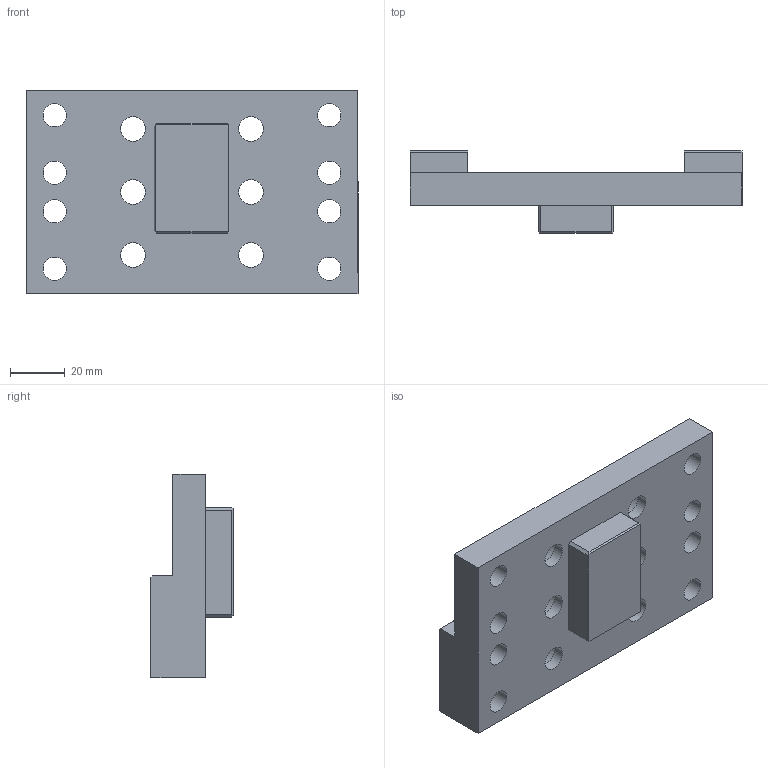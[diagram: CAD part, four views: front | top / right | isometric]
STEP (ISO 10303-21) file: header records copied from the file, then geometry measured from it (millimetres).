
FILE_DESCRIPTION(('STEP AP203'), '1');
FILE_NAME('ÒÏÏÔ1800.01.01.00.013 Ïëàòèê ëåíòû îòâåòíûé èçì1', '', ('UNSPECIFIED'), ('UNSPECIFIED'), 'C3D Converter', 'C3D Toolkit', '');
FILE_SCHEMA(('CONFIG_CONTROL_DESIGN'));
Length unit declared in the file: millimetre
Products named in the file (1): ТППФ1800.01.01.00.013
Bounding box: 121 x 30 x 74 mm (x, y, z)
Volume: 113606.2 mm3; surface area: 30408.8 mm2
Topology: 1 solids, 1 shells, 53 faces, 128 edges, 84 vertices
Faces by surface type: plane 33, cylinder 20
Full cylindrical faces by diameter (mm): 8.5 x8, 9 x6, 15 x6
Entity records: 1970 total; most frequent: DIRECTION 256, CARTESIAN_POINT 246, ORIENTED_EDGE 216, EDGE_LOOP 108, EDGE_CURVE 108, AXIS2_PLACEMENT_3D 94, VERTEX_POINT 84, FACE_BOUND 68
